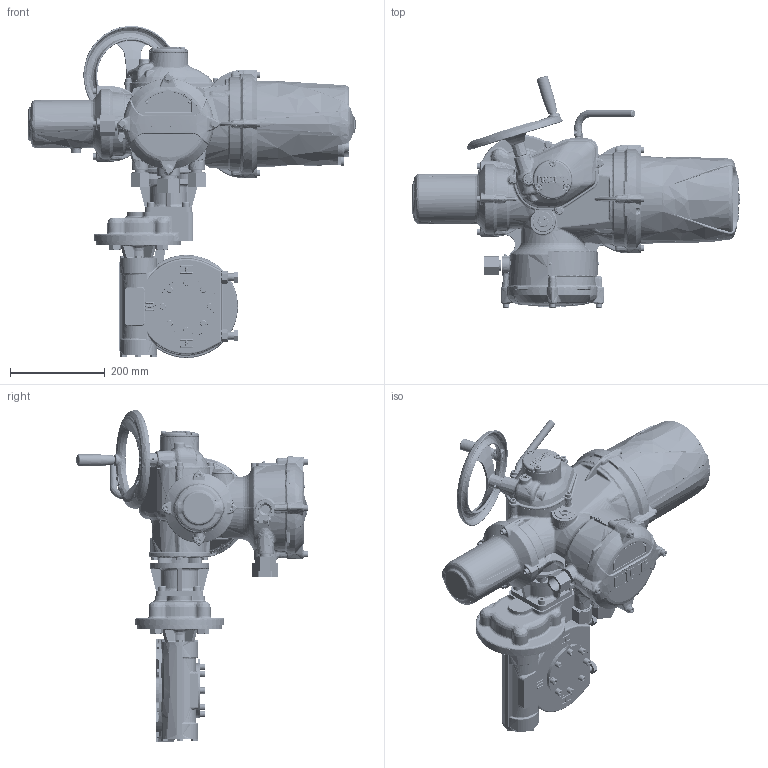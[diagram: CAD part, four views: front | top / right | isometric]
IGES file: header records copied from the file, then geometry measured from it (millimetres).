
Start section: C
Global section: file name: II1SHWIW4RLSTD-1.igs; native system: By Siemens PLM Incorporated; preprocessor: XPlus GENERIC/IGES 17.0.49; author: Author; organization: Title; date: 20150109.121059; units: millimetre
Bounding box: 692.3 x 489.76 x 702.43 mm (x, y, z)
Surface area: 1170714.9 mm2 (no closed solid volume)
Topology: 0 solids, 0 shells, 9718 faces, 53270 edges, 52820 vertices
Faces by surface type: bspline 9718
